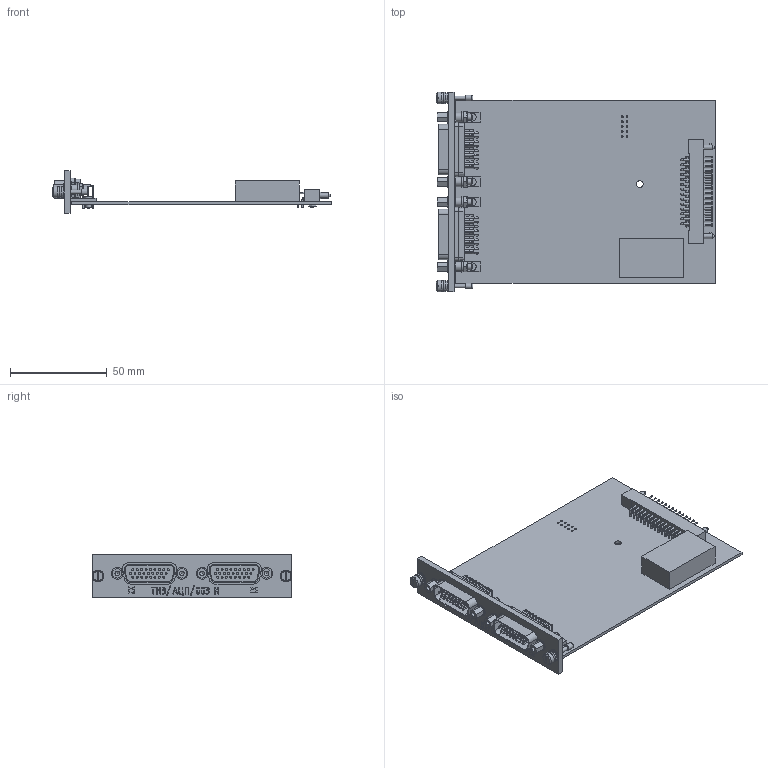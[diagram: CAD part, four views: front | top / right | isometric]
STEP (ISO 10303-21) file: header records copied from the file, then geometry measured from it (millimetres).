
FILE_DESCRIPTION(('STEP AP203'), '1');
FILE_NAME('帎迗.468155.003 沓劌錪 眝3_氈柉003', '', ('UNSPECIFIED'), ('UNSPECIFIED'), 'C3D Converter', 'C3D Toolkit', '');
FILE_SCHEMA(('CONFIG_CONTROL_DESIGN'));
Length unit declared in the file: millimetre
Products named in the file (1): КМНТ.468155.003
Bounding box: 144.03 x 103 x 21.7 mm (x, y, z)
Volume: 40459.8 mm3; surface area: 44762.2 mm2
Topology: 5 solids, 5 shells, 2221 faces, 5816 edges, 3783 vertices
Faces by surface type: cylinder 1064, plane 934, torus 91, cone 72, sphere 60
Full cylindrical faces by diameter (mm): 0.6 x177, 0.76 x52, 0.8 x29, 1 x198, 1.6 x2, 2 x2, 2.362 x4, 2.459 x2, 2.49 x2, 2.5 x2, 2.7 x2, 3 x10, 3.1 x4, 3.175 x8, 3.2 x10, 3.4 x4, 3.5 x5, 4 x4, 5 x4, 6 x14
Entity records: 90311 total; most frequent: CARTESIAN_POINT 18024, DIRECTION 12054, ORIENTED_EDGE 10116, EDGE_CURVE 5058, AXIS2_PLACEMENT_3D 4979, VERTEX_POINT 3750, EDGE_LOOP 3456, CIRCLE 2757
